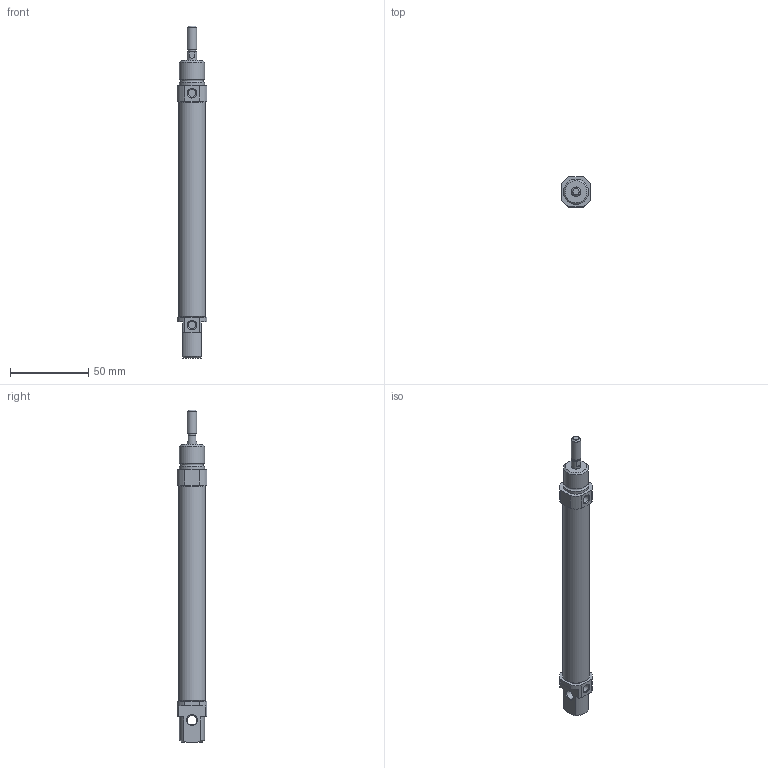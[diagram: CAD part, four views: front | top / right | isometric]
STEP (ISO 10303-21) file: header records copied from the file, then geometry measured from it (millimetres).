
FILE_DESCRIPTION((''),'2;1');
FILE_NAME('I:\3D電子目錄\氣缸\SDA\SDA16\SDA16\SDA16x100.stp','2007-08-06T10:29:13',('Administrator'),(''),'Autodesk Inventor 2008','Autodesk Inventor 2008','');
FILE_SCHEMA(('AUTOMOTIVE_DESIGN { 1 0 10303 214 1 1 1 1 }'));
Length unit declared in the file: millimetre
Products named in the file (1): SDA16X100
Bounding box: 19 x 19 x 212 mm (x, y, z)
Volume: 43599 mm3; surface area: 12014 mm2
Topology: 1 solids, 1 shells, 60 faces, 138 edges, 88 vertices
Faces by surface type: plane 26, cylinder 19, cone 12, bspline 2, torus 1
Full cylindrical faces by diameter (mm): 4.6 x1, 5 x2, 6 x3, 16 x2, 17.2 x1
Entity records: 1626 total; most frequent: CARTESIAN_POINT 289, DIRECTION 286, ORIENTED_EDGE 238, EDGE_CURVE 119, AXIS2_PLACEMENT_3D 116, EDGE_LOOP 88, VERTEX_POINT 87, FACE_OUTER_BOUND 60
